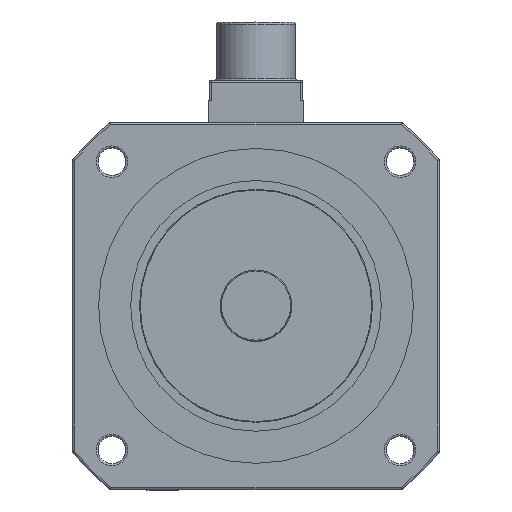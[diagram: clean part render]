
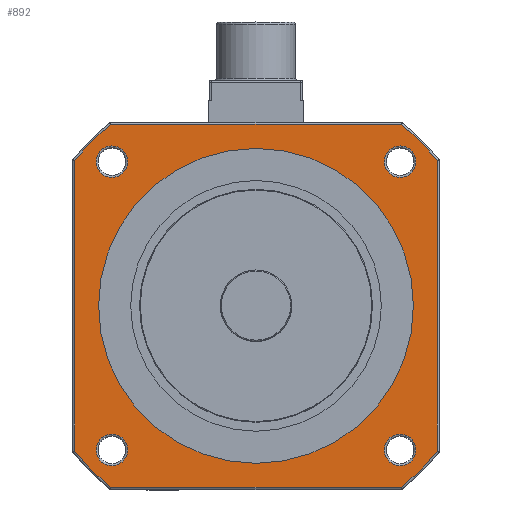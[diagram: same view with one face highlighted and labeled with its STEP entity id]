
A CAD part, top view. The second image highlights one B-rep face of the part: STEP entity #892.
In plain terms, the highlighted planar face has unit normal (0, 0, 1).
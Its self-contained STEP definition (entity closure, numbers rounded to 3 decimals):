
#787=FACE_BOUND('',#2089,.T.);
#788=FACE_BOUND('',#2090,.T.);
#789=FACE_BOUND('',#2091,.T.);
#790=FACE_BOUND('',#2092,.T.);
#791=FACE_BOUND('',#2093,.T.);
#792=FACE_BOUND('',#2094,.T.);
#892=ADVANCED_FACE('',(#787,#788,#789,#790,#791,#792),#1459,.F.);
#1459=PLANE('',#8775);
#2089=EDGE_LOOP('',(#3721));
#2090=EDGE_LOOP('',(#3722));
#2091=EDGE_LOOP('',(#3723));
#2092=EDGE_LOOP('',(#3724));
#2093=EDGE_LOOP('',(#3725,#3726,#3727,#3728,#3729,#3730,#3731,#3732));
#2094=EDGE_LOOP('',(#3733));
#2773=LINE('',#13556,#3164);
#2774=LINE('',#13561,#3165);
#2775=LINE('',#13565,#3166);
#2776=LINE('',#13569,#3167);
#3164=VECTOR('',#10227,1.);
#3165=VECTOR('',#10230,1.);
#3166=VECTOR('',#10233,1.);
#3167=VECTOR('',#10236,1.);
#3721=ORIENTED_EDGE('',*,*,#6938,.T.);
#3722=ORIENTED_EDGE('',*,*,#6939,.T.);
#3723=ORIENTED_EDGE('',*,*,#6940,.T.);
#3724=ORIENTED_EDGE('',*,*,#6941,.T.);
#3725=ORIENTED_EDGE('',*,*,#6942,.T.);
#3726=ORIENTED_EDGE('',*,*,#6943,.T.);
#3727=ORIENTED_EDGE('',*,*,#6944,.T.);
#3728=ORIENTED_EDGE('',*,*,#6945,.T.);
#3729=ORIENTED_EDGE('',*,*,#6946,.T.);
#3730=ORIENTED_EDGE('',*,*,#6947,.T.);
#3731=ORIENTED_EDGE('',*,*,#6948,.T.);
#3732=ORIENTED_EDGE('',*,*,#6949,.T.);
#3733=ORIENTED_EDGE('',*,*,#6950,.F.);
#6209=VERTEX_POINT('',#13549);
#6210=VERTEX_POINT('',#13551);
#6211=VERTEX_POINT('',#13553);
#6212=VERTEX_POINT('',#13555);
#6213=VERTEX_POINT('',#13557);
#6214=VERTEX_POINT('',#13558);
#6215=VERTEX_POINT('',#13560);
#6216=VERTEX_POINT('',#13562);
#6217=VERTEX_POINT('',#13564);
#6218=VERTEX_POINT('',#13566);
#6219=VERTEX_POINT('',#13568);
#6220=VERTEX_POINT('',#13570);
#6221=VERTEX_POINT('',#13573);
#6938=EDGE_CURVE('',#6209,#6209,#8060,.T.);
#6939=EDGE_CURVE('',#6210,#6210,#8061,.T.);
#6940=EDGE_CURVE('',#6211,#6211,#8062,.T.);
#6941=EDGE_CURVE('',#6212,#6212,#8063,.T.);
#6942=EDGE_CURVE('',#6213,#6214,#2773,.T.);
#6943=EDGE_CURVE('',#6214,#6215,#8064,.T.);
#6944=EDGE_CURVE('',#6215,#6216,#2774,.T.);
#6945=EDGE_CURVE('',#6216,#6217,#8065,.T.);
#6946=EDGE_CURVE('',#6217,#6218,#2775,.T.);
#6947=EDGE_CURVE('',#6218,#6219,#8066,.T.);
#6948=EDGE_CURVE('',#6219,#6220,#2776,.T.);
#6949=EDGE_CURVE('',#6220,#6213,#8067,.T.);
#6950=EDGE_CURVE('',#6221,#6221,#8068,.T.);
#8060=CIRCLE('',#8766,7.75);
#8061=CIRCLE('',#8767,7.75);
#8062=CIRCLE('',#8768,7.75);
#8063=CIRCLE('',#8769,7.75);
#8064=CIRCLE('',#8770,114.);
#8065=CIRCLE('',#8771,114.);
#8066=CIRCLE('',#8772,114.);
#8067=CIRCLE('',#8773,114.);
#8068=CIRCLE('',#8774,77.25);
#8766=AXIS2_PLACEMENT_3D('',#13548,#10219,#10220);
#8767=AXIS2_PLACEMENT_3D('',#13550,#10221,#10222);
#8768=AXIS2_PLACEMENT_3D('',#13552,#10223,#10224);
#8769=AXIS2_PLACEMENT_3D('',#13554,#10225,#10226);
#8770=AXIS2_PLACEMENT_3D('',#13559,#10228,#10229);
#8771=AXIS2_PLACEMENT_3D('',#13563,#10231,#10232);
#8772=AXIS2_PLACEMENT_3D('',#13567,#10234,#10235);
#8773=AXIS2_PLACEMENT_3D('',#13571,#10237,#10238);
#8774=AXIS2_PLACEMENT_3D('',#13572,#10239,#10240);
#8775=AXIS2_PLACEMENT_3D('',#13574,#10241,#10242);
#10219=DIRECTION('',(0.,0.,-1.));
#10220=DIRECTION('',(-1.,0.,0.));
#10221=DIRECTION('',(0.,0.,-1.));
#10222=DIRECTION('',(-1.,0.,0.));
#10223=DIRECTION('',(0.,0.,-1.));
#10224=DIRECTION('',(-1.,0.,0.));
#10225=DIRECTION('',(0.,0.,-1.));
#10226=DIRECTION('',(-1.,0.,0.));
#10227=DIRECTION('',(1.,0.,0.));
#10228=DIRECTION('',(0.,0.,1.));
#10229=DIRECTION('',(-1.,0.,0.));
#10230=DIRECTION('',(0.,1.,0.));
#10231=DIRECTION('',(0.,0.,1.));
#10232=DIRECTION('',(-1.,0.,0.));
#10233=DIRECTION('',(-1.,0.,0.));
#10234=DIRECTION('',(0.,0.,1.));
#10235=DIRECTION('',(-1.,0.,0.));
#10236=DIRECTION('',(0.,-1.,0.));
#10237=DIRECTION('',(0.,0.,1.));
#10238=DIRECTION('',(-1.,0.,0.));
#10239=DIRECTION('',(0.,0.,1.));
#10240=DIRECTION('',(1.,0.,0.));
#10241=DIRECTION('',(0.,0.,-1.));
#10242=DIRECTION('',(-1.,0.,0.));
#13548=CARTESIAN_POINT('',(-70.711,-70.711,-3.2));
#13549=CARTESIAN_POINT('',(-78.461,-70.711,-3.2));
#13550=CARTESIAN_POINT('',(70.711,-70.711,-3.2));
#13551=CARTESIAN_POINT('',(62.961,-70.711,-3.2));
#13552=CARTESIAN_POINT('',(70.711,70.711,-3.2));
#13553=CARTESIAN_POINT('',(62.961,70.711,-3.2));
#13554=CARTESIAN_POINT('',(-70.711,70.711,-3.2));
#13555=CARTESIAN_POINT('',(-78.461,70.711,-3.2));
#13556=CARTESIAN_POINT('',(-90.,-89.,-3.2));
#13557=CARTESIAN_POINT('',(-71.239,-89.,-3.2));
#13558=CARTESIAN_POINT('',(71.239,-89.,-3.2));
#13559=CARTESIAN_POINT('',(0.,0.,-3.2));
#13560=CARTESIAN_POINT('',(89.,-71.239,-3.2));
#13561=CARTESIAN_POINT('',(89.,90.,-3.2));
#13562=CARTESIAN_POINT('',(89.,71.239,-3.2));
#13563=CARTESIAN_POINT('',(0.,0.,-3.2));
#13564=CARTESIAN_POINT('',(71.239,89.,-3.2));
#13565=CARTESIAN_POINT('',(-90.,89.,-3.2));
#13566=CARTESIAN_POINT('',(-71.239,89.,-3.2));
#13567=CARTESIAN_POINT('',(0.,0.,-3.2));
#13568=CARTESIAN_POINT('',(-89.,71.239,-3.2));
#13569=CARTESIAN_POINT('',(-89.,90.,-3.2));
#13570=CARTESIAN_POINT('',(-89.,-71.239,-3.2));
#13571=CARTESIAN_POINT('',(0.,0.,-3.2));
#13572=CARTESIAN_POINT('',(0.,0.,-3.2));
#13573=CARTESIAN_POINT('',(77.25,0.,-3.2));
#13574=CARTESIAN_POINT('',(-90.,90.,-3.2));
